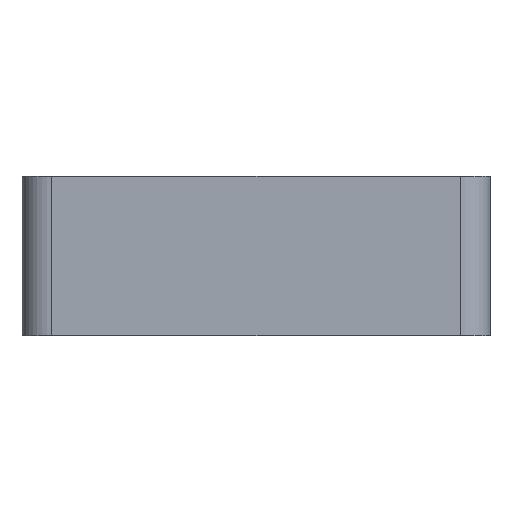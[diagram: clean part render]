
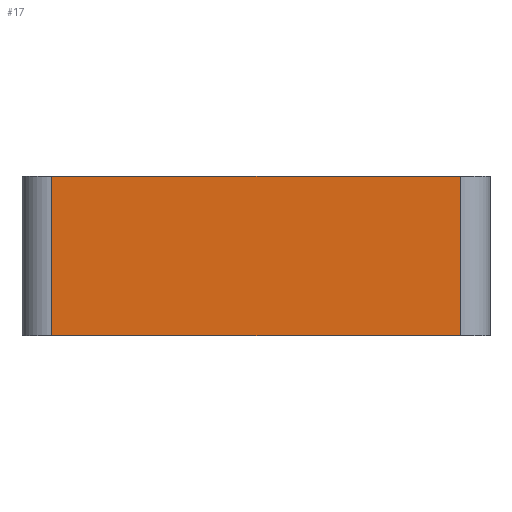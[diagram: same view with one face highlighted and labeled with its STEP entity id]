
A CAD part, left-side view. The second image highlights one B-rep face of the part: STEP entity #17.
In plain terms, the highlighted planar face has unit normal (-1, 0, 0).
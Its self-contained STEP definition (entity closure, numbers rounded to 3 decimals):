
#17 = ADVANCED_FACE('',(#18),#32,.F.);
#18 = FACE_BOUND('',#19,.F.);
#19 = EDGE_LOOP('',(#20,#55,#83,#111));
#20 = ORIENTED_EDGE('',*,*,#21,.F.);
#21 = EDGE_CURVE('',#22,#24,#26,.T.);
#22 = VERTEX_POINT('',#23);
#23 = CARTESIAN_POINT('',(0.,14.,75.));
#24 = VERTEX_POINT('',#25);
#25 = CARTESIAN_POINT('',(0.,206.,75.));
#26 = SURFACE_CURVE('',#27,(#31,#43),.PCURVE_S1.);
#27 = LINE('',#28,#29);
#28 = CARTESIAN_POINT('',(0.,0.,75.));
#29 = VECTOR('',#30,1.);
#30 = DIRECTION('',(0.,1.,0.));
#31 = PCURVE('',#32,#37);
#32 = PLANE('',#33);
#33 = AXIS2_PLACEMENT_3D('',#34,#35,#36);
#34 = CARTESIAN_POINT('',(0.,0.,0.));
#35 = DIRECTION('',(1.,0.,0.));
#36 = DIRECTION('',(0.,0.,1.));
#37 = DEFINITIONAL_REPRESENTATION('',(#38),#42);
#38 = LINE('',#39,#40);
#39 = CARTESIAN_POINT('',(75.,0.));
#40 = VECTOR('',#41,1.);
#41 = DIRECTION('',(0.,-1.));
#42 = ( GEOMETRIC_REPRESENTATION_CONTEXT(2) 
PARAMETRIC_REPRESENTATION_CONTEXT() REPRESENTATION_CONTEXT('2D SPACE',''
  ) );
#43 = PCURVE('',#44,#49);
#44 = PLANE('',#45);
#45 = AXIS2_PLACEMENT_3D('',#46,#47,#48);
#46 = CARTESIAN_POINT('',(0.,0.,75.));
#47 = DIRECTION('',(0.,0.,1.));
#48 = DIRECTION('',(1.,0.,0.));
#49 = DEFINITIONAL_REPRESENTATION('',(#50),#54);
#50 = LINE('',#51,#52);
#51 = CARTESIAN_POINT('',(0.,0.));
#52 = VECTOR('',#53,1.);
#53 = DIRECTION('',(0.,1.));
#54 = ( GEOMETRIC_REPRESENTATION_CONTEXT(2) 
PARAMETRIC_REPRESENTATION_CONTEXT() REPRESENTATION_CONTEXT('2D SPACE',''
  ) );
#55 = ORIENTED_EDGE('',*,*,#56,.F.);
#56 = EDGE_CURVE('',#57,#22,#59,.T.);
#57 = VERTEX_POINT('',#58);
#58 = CARTESIAN_POINT('',(0.,14.,0.));
#59 = SURFACE_CURVE('',#60,(#64,#71),.PCURVE_S1.);
#60 = LINE('',#61,#62);
#61 = CARTESIAN_POINT('',(0.,14.,0.));
#62 = VECTOR('',#63,1.);
#63 = DIRECTION('',(0.,0.,1.));
#64 = PCURVE('',#32,#65);
#65 = DEFINITIONAL_REPRESENTATION('',(#66),#70);
#66 = LINE('',#67,#68);
#67 = CARTESIAN_POINT('',(0.,-14.));
#68 = VECTOR('',#69,1.);
#69 = DIRECTION('',(1.,0.));
#70 = ( GEOMETRIC_REPRESENTATION_CONTEXT(2) 
PARAMETRIC_REPRESENTATION_CONTEXT() REPRESENTATION_CONTEXT('2D SPACE',''
  ) );
#71 = PCURVE('',#72,#77);
#72 = CYLINDRICAL_SURFACE('',#73,14.);
#73 = AXIS2_PLACEMENT_3D('',#74,#75,#76);
#74 = CARTESIAN_POINT('',(14.,14.,0.));
#75 = DIRECTION('',(0.,0.,1.));
#76 = DIRECTION('',(-1.,-0.,0.));
#77 = DEFINITIONAL_REPRESENTATION('',(#78),#82);
#78 = LINE('',#79,#80);
#79 = CARTESIAN_POINT('',(0.,0.));
#80 = VECTOR('',#81,1.);
#81 = DIRECTION('',(0.,1.));
#82 = ( GEOMETRIC_REPRESENTATION_CONTEXT(2) 
PARAMETRIC_REPRESENTATION_CONTEXT() REPRESENTATION_CONTEXT('2D SPACE',''
  ) );
#83 = ORIENTED_EDGE('',*,*,#84,.T.);
#84 = EDGE_CURVE('',#57,#85,#87,.T.);
#85 = VERTEX_POINT('',#86);
#86 = CARTESIAN_POINT('',(0.,206.,0.));
#87 = SURFACE_CURVE('',#88,(#92,#99),.PCURVE_S1.);
#88 = LINE('',#89,#90);
#89 = CARTESIAN_POINT('',(0.,0.,0.));
#90 = VECTOR('',#91,1.);
#91 = DIRECTION('',(0.,1.,0.));
#92 = PCURVE('',#32,#93);
#93 = DEFINITIONAL_REPRESENTATION('',(#94),#98);
#94 = LINE('',#95,#96);
#95 = CARTESIAN_POINT('',(0.,0.));
#96 = VECTOR('',#97,1.);
#97 = DIRECTION('',(0.,-1.));
#98 = ( GEOMETRIC_REPRESENTATION_CONTEXT(2) 
PARAMETRIC_REPRESENTATION_CONTEXT() REPRESENTATION_CONTEXT('2D SPACE',''
  ) );
#99 = PCURVE('',#100,#105);
#100 = PLANE('',#101);
#101 = AXIS2_PLACEMENT_3D('',#102,#103,#104);
#102 = CARTESIAN_POINT('',(0.,0.,0.));
#103 = DIRECTION('',(0.,0.,1.));
#104 = DIRECTION('',(1.,0.,0.));
#105 = DEFINITIONAL_REPRESENTATION('',(#106),#110);
#106 = LINE('',#107,#108);
#107 = CARTESIAN_POINT('',(0.,0.));
#108 = VECTOR('',#109,1.);
#109 = DIRECTION('',(0.,1.));
#110 = ( GEOMETRIC_REPRESENTATION_CONTEXT(2) 
PARAMETRIC_REPRESENTATION_CONTEXT() REPRESENTATION_CONTEXT('2D SPACE',''
  ) );
#111 = ORIENTED_EDGE('',*,*,#112,.T.);
#112 = EDGE_CURVE('',#85,#24,#113,.T.);
#113 = SURFACE_CURVE('',#114,(#118,#125),.PCURVE_S1.);
#114 = LINE('',#115,#116);
#115 = CARTESIAN_POINT('',(0.,206.,0.));
#116 = VECTOR('',#117,1.);
#117 = DIRECTION('',(0.,0.,1.));
#118 = PCURVE('',#32,#119);
#119 = DEFINITIONAL_REPRESENTATION('',(#120),#124);
#120 = LINE('',#121,#122);
#121 = CARTESIAN_POINT('',(0.,-206.));
#122 = VECTOR('',#123,1.);
#123 = DIRECTION('',(1.,0.));
#124 = ( GEOMETRIC_REPRESENTATION_CONTEXT(2) 
PARAMETRIC_REPRESENTATION_CONTEXT() REPRESENTATION_CONTEXT('2D SPACE',''
  ) );
#125 = PCURVE('',#126,#131);
#126 = CYLINDRICAL_SURFACE('',#127,14.);
#127 = AXIS2_PLACEMENT_3D('',#128,#129,#130);
#128 = CARTESIAN_POINT('',(14.,206.,0.));
#129 = DIRECTION('',(0.,0.,1.));
#130 = DIRECTION('',(-1.,-0.,0.));
#131 = DEFINITIONAL_REPRESENTATION('',(#132),#136);
#132 = LINE('',#133,#134);
#133 = CARTESIAN_POINT('',(-0.,0.));
#134 = VECTOR('',#135,1.);
#135 = DIRECTION('',(-0.,1.));
#136 = ( GEOMETRIC_REPRESENTATION_CONTEXT(2) 
PARAMETRIC_REPRESENTATION_CONTEXT() REPRESENTATION_CONTEXT('2D SPACE',''
  ) );
